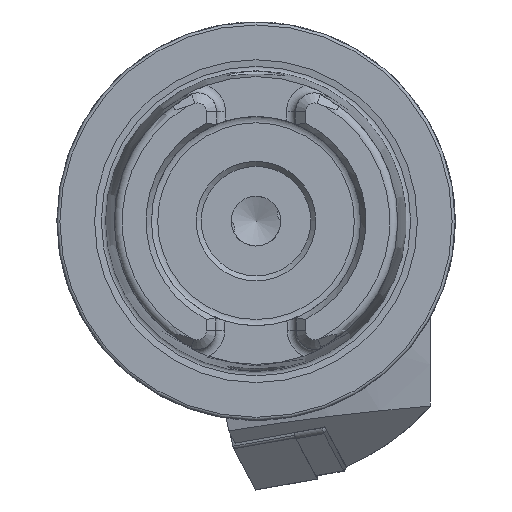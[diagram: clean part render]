
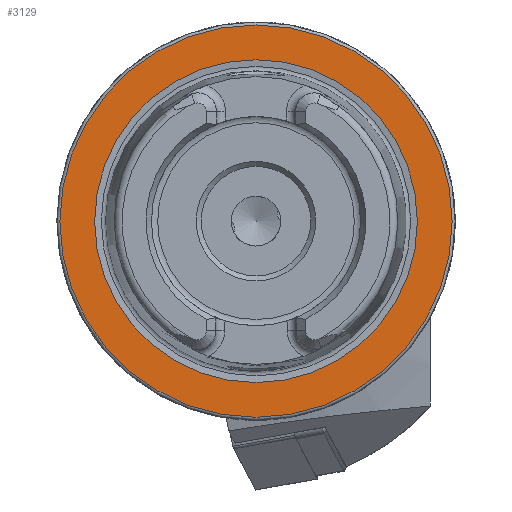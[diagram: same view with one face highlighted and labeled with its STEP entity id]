
A CAD part, left-side view. The second image highlights one B-rep face of the part: STEP entity #3129.
In plain terms, the highlighted planar face has unit normal (-1, 0, 0).
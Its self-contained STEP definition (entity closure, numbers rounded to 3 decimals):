
#1776 = EDGE_LOOP ( 'NONE', ( #8188 ) ) ;
#3129 = ADVANCED_FACE ( 'NONE', ( #5399, #5837 ), #11235, .F. ) ;
#4491 = CARTESIAN_POINT ( 'NONE',  ( 0., 0., 19.7 ) ) ;
#5044 = AXIS2_PLACEMENT_3D ( 'NONE', #6804, #9410, #5105 ) ;
#5105 = DIRECTION ( 'NONE',  ( 0., 0., 1. ) ) ;
#5399 = FACE_BOUND ( 'NONE', #1776, .T. ) ;
#5557 = EDGE_CURVE ( 'NONE', #6988, #6988, #9442, .T. ) ;
#5837 = FACE_OUTER_BOUND ( 'NONE', #10528, .T. ) ;
#6020 = VERTEX_POINT ( 'NONE', #4491 ) ;
#6622 = DIRECTION ( 'NONE',  ( -1., 0., 0. ) ) ;
#6755 = AXIS2_PLACEMENT_3D ( 'NONE', #9187, #6622, #9978 ) ;
#6804 = CARTESIAN_POINT ( 'NONE',  ( 0., 0., 0. ) ) ;
#6988 = VERTEX_POINT ( 'NONE', #7974 ) ;
#7732 = DIRECTION ( 'NONE',  ( 0., 0., -1. ) ) ;
#7963 = CIRCLE ( 'NONE', #5044, 19.7 ) ;
#7974 = CARTESIAN_POINT ( 'NONE',  ( 0., 0., 16.207 ) ) ;
#8188 = ORIENTED_EDGE ( 'NONE', *, *, #5557, .F. ) ;
#8662 = EDGE_CURVE ( 'NONE', #6020, #6020, #7963, .T. ) ;
#9187 = CARTESIAN_POINT ( 'NONE',  ( 0., 0., 0. ) ) ;
#9410 = DIRECTION ( 'NONE',  ( -1., 0., 0. ) ) ;
#9442 = CIRCLE ( 'NONE', #6755, 16.207 ) ;
#9486 = ORIENTED_EDGE ( 'NONE', *, *, #8662, .T. ) ;
#9978 = DIRECTION ( 'NONE',  ( 0., 0., 1. ) ) ;
#10273 = CARTESIAN_POINT ( 'NONE',  ( 0., 19.7, 0. ) ) ;
#10528 = EDGE_LOOP ( 'NONE', ( #9486 ) ) ;
#10602 = AXIS2_PLACEMENT_3D ( 'NONE', #10273, #11161, #7732 ) ;
#11161 = DIRECTION ( 'NONE',  ( 1., 0., 0. ) ) ;
#11235 = PLANE ( 'NONE',  #10602 ) ;
